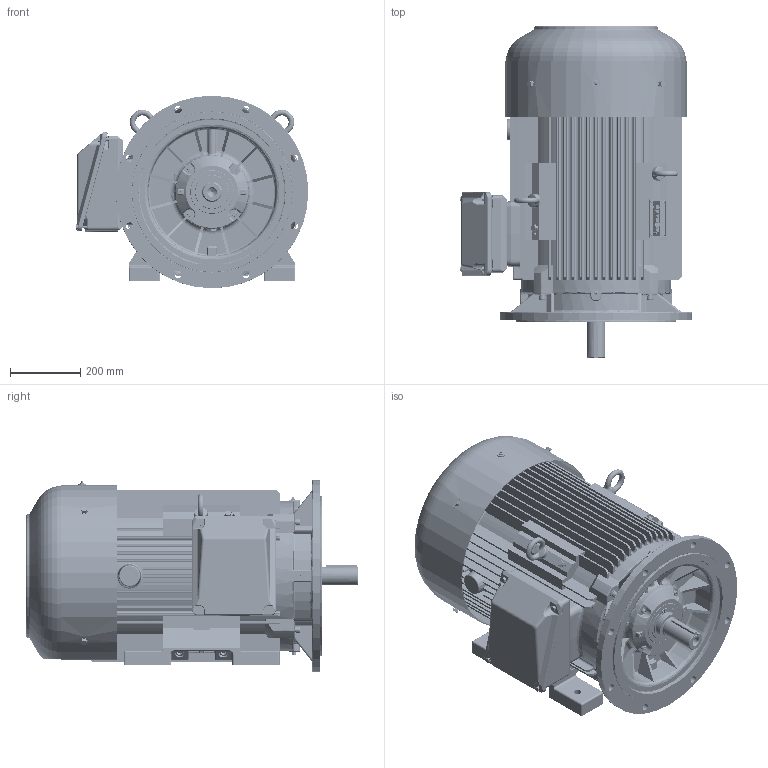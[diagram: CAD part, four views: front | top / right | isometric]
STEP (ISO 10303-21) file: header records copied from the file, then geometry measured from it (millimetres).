
FILE_DESCRIPTION(/* description */ ('Unknown','CAx-IF Rec.Pracs.---Representation and Presentation of Product Manufacturing Information (PMI)---4.0---2014-10-13','CAx-IF Rec.Pracs.---3D Tessellated Geometry---0.4---2014-09-14','2;1'),/* implementation_level */ '2;1');
FILE_NAME(/* name */ 'Silnik SIE400TSDL2',/* time_stamp */ '2024-07-08T08:55:54+02:00',/* author */ ('Unknown'),/* organization */ ('Unknown'),/* preprocessor_version */ 'ST-DEVELOPER v16.7',/* originating_system */ 'DEX',/* authorisation */ $);
FILE_SCHEMA (('AUTOMOTIVE_DESIGN { 1 0 10303 214 3 1 1 }','AP242_MANAGED_MODEL_BASED_3D_ENGINEERING_MIM_LF { 1 0 10303 442 20130219 1 4 }'));
Products named in the file (1): Silnik  SIE400TSDL2
Bounding box: 664.17 x 947.48 x 550 mm (x, y, z)
Volume: 88649642 mm3; surface area: 8126238.1 mm2
Topology: 11 solids, 69 shells, 10368 faces, 27090 edges, 16913 vertices
Faces by surface type: plane 5635, cylinder 2252, bspline 956, torus 902, cone 384, sphere 239
Full cylindrical faces by diameter (mm): 1.6 x2, 2.459 x2, 2.5 x4, 3 x17, 3.4 x4, 4.917 x3, 5 x4, 6 x5, 6.2 x14, 6.3 x1, 6.35 x3, 6.4 x2, 6.466 x8, 6.647 x8, 8 x30, 8.376 x4, 8.4 x2, 8.5 x5, 8.917 x1, 9 x12, 9.853 x8, 10 x23, 10.106 x12, 10.5 x5, 11.63 x5, 12 x20, 13 x8, 13.546 x4, 13.835 x4, 14 x9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
Entity records: 351652 total; most frequent: CARTESIAN_POINT 106845, ORIENTED_EDGE 51344, DIRECTION 47218, EDGE_CURVE 25672, VERTEX_POINT 16486, AXIS2_PLACEMENT_3D 15762, LINE 15694, VECTOR 15694
